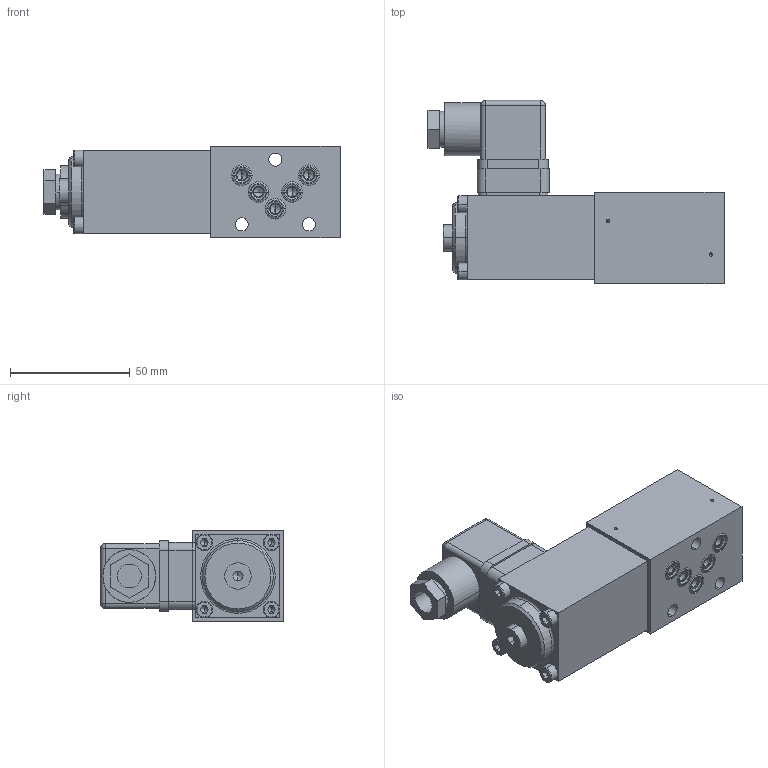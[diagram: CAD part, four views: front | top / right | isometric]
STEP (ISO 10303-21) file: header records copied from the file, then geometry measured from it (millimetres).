
FILE_DESCRIPTION (( 'STEP AP214' ), '1' );
FILE_NAME ('B.22041a.STEP', '2017-03-17T12:29:23', ( '' ), ( '' ), 'SwSTEP 2.0', 'SolidWorks 2016', '' );
FILE_SCHEMA (( 'AUTOMOTIVE_DESIGN' ));
Length unit declared in the file: millimetre
Products named in the file (1): B.22041a
Bounding box: 123.5 x 76.3 x 38 mm (x, y, z)
Volume: 171076.7 mm3; surface area: 41097.2 mm2
Topology: 19 solids, 20 shells, 642 faces, 1570 edges, 978 vertices
Faces by surface type: plane 315, cylinder 205, cone 58, bspline 46, torus 18
Entity records: 26549 total; most frequent: CARTESIAN_POINT 4205, DIRECTION 3203, ORIENTED_EDGE 3064, EDGE_CURVE 1532, AXIS2_PLACEMENT_3D 1152, VERTEX_POINT 978, VECTOR 899, LINE 899
